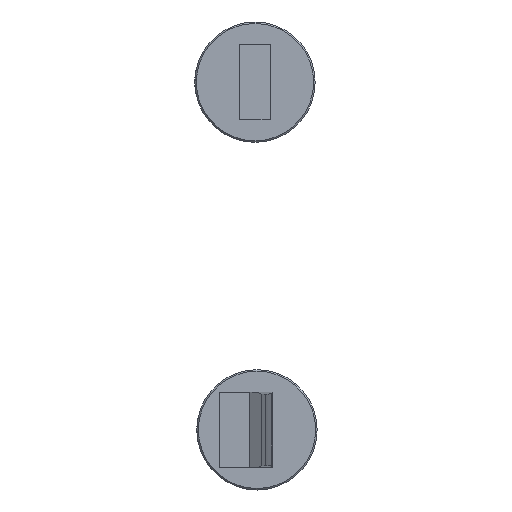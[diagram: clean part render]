
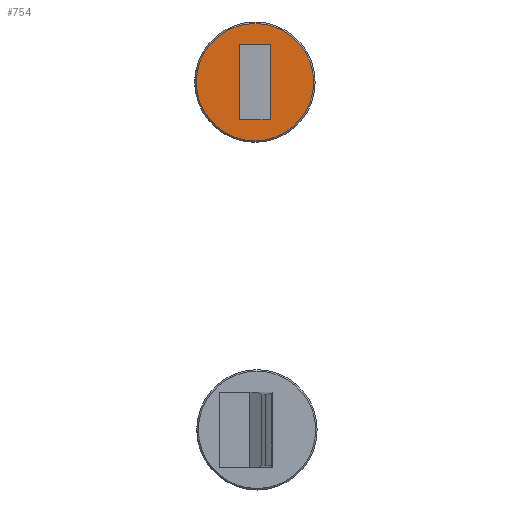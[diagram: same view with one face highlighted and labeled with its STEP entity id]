
A CAD part, left-side view. The second image highlights one B-rep face of the part: STEP entity #754.
In plain terms, the highlighted planar face has unit normal (-1, 0, 0) as drawn and (0, 0, -1) by its records, which use the part's own axes.
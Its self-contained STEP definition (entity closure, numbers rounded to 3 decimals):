
#6 = FACE_BOUND ( 'NONE', #1028, .T. ) ;
#18 = FACE_OUTER_BOUND ( 'NONE', #584, .T. ) ;
#584 = EDGE_LOOP ( 'NONE', ( #1041, #1048 ) ) ;
#651 = VECTOR ( 'NONE', #2310, 1000. ) ;
#676 = AXIS2_PLACEMENT_3D ( 'NONE', #2286, #2287, #2293 ) ;
#678 = CIRCLE ( 'NONE', #676, 7.8 ) ;
#679 = VECTOR ( 'NONE', #2258, 1000. ) ;
#754 = ADVANCED_FACE ( 'NONE', ( #6, #18 ), #2539, .F. ) ;
#795 = EDGE_CURVE ( 'NONE', #1088, #1105, #678, .T. ) ;
#797 = EDGE_CURVE ( 'NONE', #1103, #1119, #2257, .T. ) ;
#799 = EDGE_CURVE ( 'NONE', #1104, #1086, #2256, .T. ) ;
#805 = EDGE_CURVE ( 'NONE', #1086, #1103, #1411, .T. ) ;
#825 = EDGE_CURVE ( 'NONE', #1119, #1104, #1475, .T. ) ;
#837 = EDGE_CURVE ( 'NONE', #1105, #1088, #2656, .T. ) ;
#1028 = EDGE_LOOP ( 'NONE', ( #1061, #1138, #1038, #1046 ) ) ;
#1038 = ORIENTED_EDGE ( 'NONE', *, *, #805, .F. ) ;
#1041 = ORIENTED_EDGE ( 'NONE', *, *, #837, .F. ) ;
#1046 = ORIENTED_EDGE ( 'NONE', *, *, #799, .F. ) ;
#1048 = ORIENTED_EDGE ( 'NONE', *, *, #795, .F. ) ;
#1061 = ORIENTED_EDGE ( 'NONE', *, *, #825, .F. ) ;
#1086 = VERTEX_POINT ( 'NONE', #2049 ) ;
#1088 = VERTEX_POINT ( 'NONE', #2034 ) ;
#1103 = VERTEX_POINT ( 'NONE', #2023 ) ;
#1104 = VERTEX_POINT ( 'NONE', #2036 ) ;
#1105 = VERTEX_POINT ( 'NONE', #2007 ) ;
#1119 = VERTEX_POINT ( 'NONE', #2062 ) ;
#1138 = ORIENTED_EDGE ( 'NONE', *, *, #797, .F. ) ;
#1224 = AXIS2_PLACEMENT_3D ( 'NONE', #2532, #2533, #2531 ) ;
#1411 = LINE ( 'NONE', #1426, #2618 ) ;
#1426 = CARTESIAN_POINT ( 'NONE',  ( 0., 2., 0. ) ) ;
#1427 = DIRECTION ( 'NONE',  ( 1., 0., 0. ) ) ;
#1460 = DIRECTION ( 'NONE',  ( -1., 0., 0. ) ) ;
#1463 = CARTESIAN_POINT ( 'NONE',  ( 0., -2., 0. ) ) ;
#1475 = LINE ( 'NONE', #1463, #2639 ) ;
#1501 = DIRECTION ( 'NONE',  ( 0., 0., 1. ) ) ;
#1522 = CARTESIAN_POINT ( 'NONE',  ( 0., 0., 0. ) ) ;
#1527 = DIRECTION ( 'NONE',  ( 1., 0., 0. ) ) ;
#2007 = CARTESIAN_POINT ( 'NONE',  ( 7.8, 0., 0. ) ) ;
#2023 = CARTESIAN_POINT ( 'NONE',  ( 5., 2., 0. ) ) ;
#2034 = CARTESIAN_POINT ( 'NONE',  ( -7.8, 0., 0. ) ) ;
#2036 = CARTESIAN_POINT ( 'NONE',  ( -5., -2., 0. ) ) ;
#2049 = CARTESIAN_POINT ( 'NONE',  ( -5., 2., 0. ) ) ;
#2062 = CARTESIAN_POINT ( 'NONE',  ( 5., -2., 0. ) ) ;
#2256 = LINE ( 'NONE', #2282, #651 ) ;
#2257 = LINE ( 'NONE', #2301, #679 ) ;
#2258 = DIRECTION ( 'NONE',  ( 0., -1., 0. ) ) ;
#2282 = CARTESIAN_POINT ( 'NONE',  ( -5., 0., 0. ) ) ;
#2286 = CARTESIAN_POINT ( 'NONE',  ( 0., 0., 0. ) ) ;
#2287 = DIRECTION ( 'NONE',  ( 0., 0., 1. ) ) ;
#2293 = DIRECTION ( 'NONE',  ( 1., 0., 0. ) ) ;
#2301 = CARTESIAN_POINT ( 'NONE',  ( 5., 0., 0. ) ) ;
#2310 = DIRECTION ( 'NONE',  ( 0., 1., 0. ) ) ;
#2531 = DIRECTION ( 'NONE',  ( 0., -1., 0. ) ) ;
#2532 = CARTESIAN_POINT ( 'NONE',  ( 0., 0., 0. ) ) ;
#2533 = DIRECTION ( 'NONE',  ( 0., 0., 1. ) ) ;
#2539 = PLANE ( 'NONE',  #1224 ) ;
#2618 = VECTOR ( 'NONE', #1427, 1000. ) ;
#2639 = VECTOR ( 'NONE', #1460, 1000. ) ;
#2656 = CIRCLE ( 'NONE', #2657, 7.8 ) ;
#2657 = AXIS2_PLACEMENT_3D ( 'NONE', #1522, #1501, #1527 ) ;
